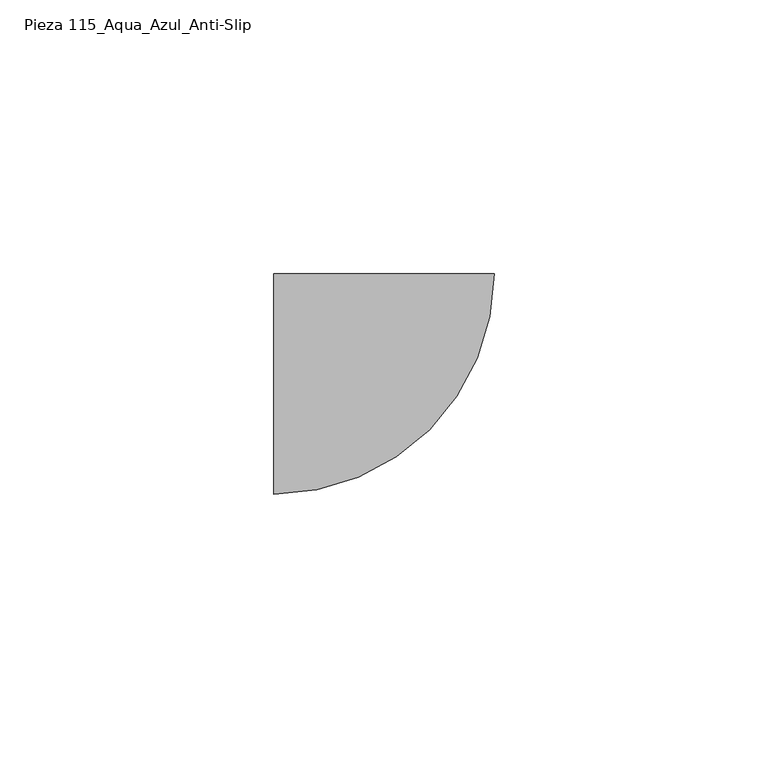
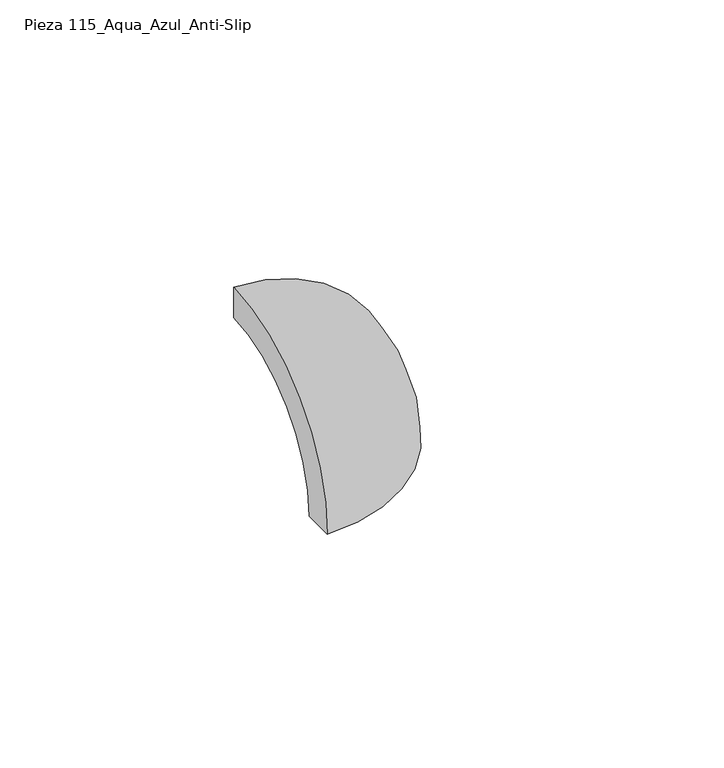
"""IFC4 building model written with IfcOpenShell, lengths in millimetres: proxy geometry, ROSA GRES_115 : Pieza 115_Aqua_Azul_Anti-Slip."""

from ifc_helpers import new_model, si_unit, point, frame, origin, place, context, project, spatial, circle_curve, ellipse_curve, trimmed, source, transform, mapped, element, save
from ifc_brep_helpers import plane_surface, revolved_surface, advanced_brep


def pieza_115_aqua_azul_anti_slip_2f38e3b8(model_context):
    return source(origin(), model_context, "Body", "AdvancedBrep", [
        advanced_brep(
        [(0.0, -32.3023819, 0.0), (0.0, -40.1870778, 0.0), (0.0, 0.0, 40.1870778), (0.0, 0.0, 32.3023819), (32.3023819, 0.0, 0.0), (40.1870778, 0.0, 0.0)],
        [
            (0, 1),
            (1, 2, circle_curve(frame((0.0, 0.0, 0.0), z_axis=(-1.0, 0.0, 0.0), x_axis=(0.0, 1.0, 0.0)), 40.1870778)),
            (2, 3),
            (3, 0, circle_curve(frame((0.0, 0.0, 0.0), z_axis=(1.0, 0.0, 0.0), x_axis=(0.0, 1.0, 0.0)), 32.3023819)),
            (4, 3, circle_curve(frame((0.0, 0.0, 0.0), z_axis=(0.0, -1.0, 0.0), x_axis=(-1.0, 0.0, 0.0)), 32.3023819)),
            (2, 5, circle_curve(frame((0.0, 0.0, 0.0), z_axis=(0.0, 1.0, 0.0), x_axis=(-1.0, 0.0, 0.0)), 40.1870778)),
            (5, 4),
            (5, 1, circle_curve(frame((0.0, 0.0, 0.0), z_axis=(0.0, 0.0, -1.0), x_axis=(0.0, -1.0, 0.0)), 40.1870778)),
            (0, 4, circle_curve(frame((0.0, 0.0, 0.0), z_axis=(0.0, 0.0, 1.0), x_axis=(0.0, -1.0, 0.0)), 32.3023819)),
        ],
        [
            plane_surface(frame((0.0, 0.0, 65.0354514), z_axis=(-1.0, 0.0, 0.0), x_axis=(0.0, -1.0, 0.0))),
            plane_surface(frame((0.0, 0.0, 65.0354514), z_axis=(0.0, 1.0, 0.0), x_axis=(1.0, 0.0, 0.0))),
            plane_surface(frame((0.0, 0.0, 0.0), z_axis=(0.0, 0.0, -1.0), x_axis=(0.0, -1.0, 0.0))),
            revolved_surface(trimmed(ellipse_curve(frame((0.0, 0.0, 0.0), z_axis=(-1.0, 0.0, 0.0), x_axis=(0.0, 1.0, 0.0)), 40.1870778, 40.1870778), [point((0.0, -40.1870778, 0.0))], [point((0.0, 0.0, 40.1870778))], True, "CARTESIAN"), (0.0, 0.0, 65.0354514), (0.0, 0.0, 1.0)),
            revolved_surface(trimmed(ellipse_curve(frame((0.0, 0.0, 0.0), z_axis=(1.0, 0.0, 0.0), x_axis=(0.0, 1.0, 0.0)), 32.3023819, 32.3023819), [point((0.0, 0.0, 32.3023819))], [point((0.0, -32.3023819, 0.0))], True, "CARTESIAN"), (0.0, 0.0, 65.0354514), (0.0, 0.0, 1.0)),
        ],
        [
            (0, [[1, 2, 3, 4]]),
            (1, [[5, -3, 6, 7]]),
            (2, [[8, -1, 9, -7]]),
            (3, [[-2, -8, -6]]),
            (4, [[-9, -4, -5]]),
        ],
    ),
    ])


if __name__ == "__main__":
    model = new_model("IFC4")
    model_context = context("Model", 3, world=origin())
    ifc_project = project(units=[si_unit("LENGTHUNIT", "METRE", prefix="MILLI")], contexts=[model_context])
    site = spatial("IfcSite", under=ifc_project)
    building = spatial("IfcBuilding", under=site)
    placement = place(None, origin())
    pieza_115_aqua_azul_anti_slip_shape = pieza_115_aqua_azul_anti_slip_2f38e3b8(model_context)
    element("IfcBuildingElementProxy", 1, Name="ROSA GRES_115 : Pieza 115_Aqua_Azul_Anti-Slip", ObjectType="ROSA GRES_115 : Pieza 115_Aqua_Azul_Anti-Slip", at=placement, inside=building, context=model_context, shape_type="MappedRepresentation", body=[
        mapped(pieza_115_aqua_azul_anti_slip_shape, transform((0.0, 0.0, 0.0), x_axis=(1.0, 0.0, 0.0), y_axis=(0.0, 1.0, 0.0), z_axis=(0.0, 0.0, 1.0))),
    ])
    save(model, "model.ifc")
